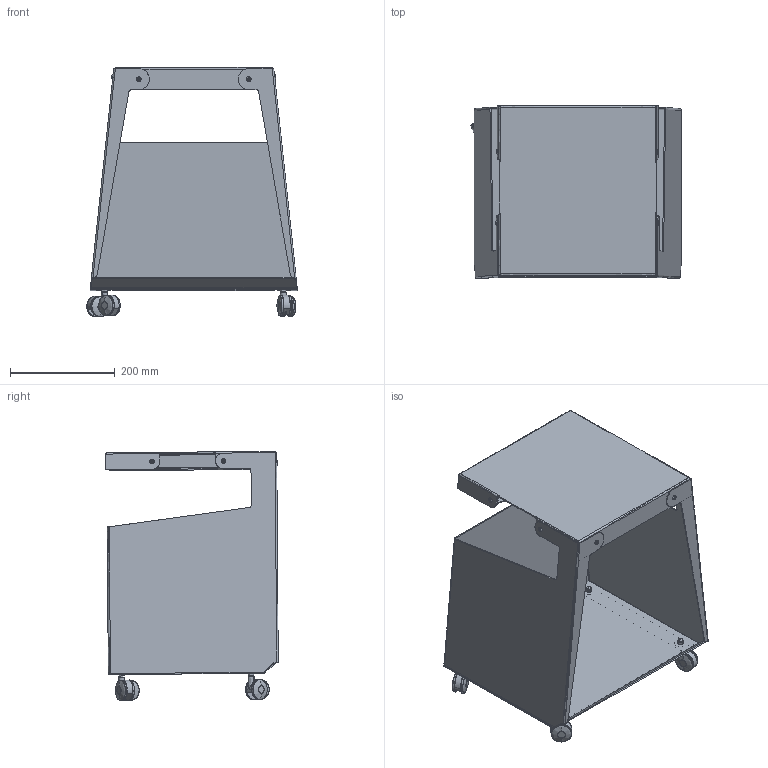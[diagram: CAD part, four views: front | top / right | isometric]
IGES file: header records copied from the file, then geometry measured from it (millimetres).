
Global section: file name: C:\Users\colombo_c\Desktop\Danese\Sito\3D mancanti\Smith\Smith.igs; native system: Rhinoceros ( Apr 16 2024 ); preprocessor: Trout Lake IGES 012 Apr 16 2024; date: 250714.160928; units: millimetre
Bounding box: 402.78 x 329.84 x 476.43 mm (x, y, z)
Surface area: 1803511 mm2 (no closed solid volume)
Topology: 0 solids, 0 shells, 644 faces, 3600 edges, 3592 vertices
Faces by surface type: bspline 644
